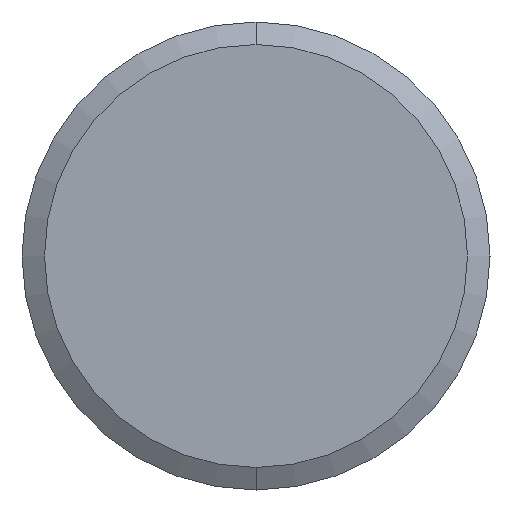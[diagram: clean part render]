
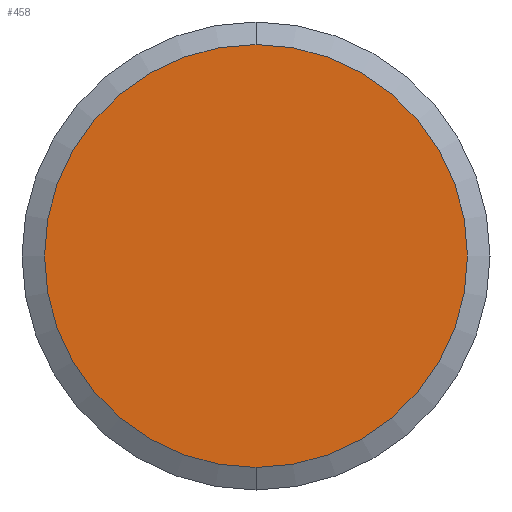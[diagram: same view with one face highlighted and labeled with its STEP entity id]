
A CAD part, front view. The second image highlights one B-rep face of the part: STEP entity #458.
In plain terms, the highlighted planar face has unit normal (0, -1, 0).
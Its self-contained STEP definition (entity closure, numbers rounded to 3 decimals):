
#6 = EDGE_LOOP ( 'NONE', ( #254, #579 ) ) ;
#68 = PLANE ( 'NONE',  #440 ) ;
#110 = CIRCLE ( 'NONE', #653, 4.7 ) ;
#161 = CARTESIAN_POINT ( 'NONE',  ( 0., -7.3, -4.7 ) ) ;
#169 = CARTESIAN_POINT ( 'NONE',  ( 0., -7.3, 0. ) ) ;
#223 = CARTESIAN_POINT ( 'NONE',  ( 0., -7.3, 4.7 ) ) ;
#233 = DIRECTION ( 'NONE',  ( 0., -1., 0. ) ) ;
#254 = ORIENTED_EDGE ( 'NONE', *, *, #712, .T. ) ;
#270 = DIRECTION ( 'NONE',  ( 0., 0., 1. ) ) ;
#312 = DIRECTION ( 'NONE',  ( 0., 1., 0. ) ) ;
#358 = FACE_OUTER_BOUND ( 'NONE', #6, .T. ) ;
#407 = DIRECTION ( 'NONE',  ( 0., -1., 0. ) ) ;
#440 = AXIS2_PLACEMENT_3D ( 'NONE', #736, #312, #443 ) ;
#443 = DIRECTION ( 'NONE',  ( 0., 0., 1. ) ) ;
#451 = VERTEX_POINT ( 'NONE', #161 ) ;
#456 = VERTEX_POINT ( 'NONE', #223 ) ;
#458 = ADVANCED_FACE ( 'NONE', ( #358 ), #68, .F. ) ;
#472 = DIRECTION ( 'NONE',  ( 0., 0., 1. ) ) ;
#491 = CIRCLE ( 'NONE', #681, 4.7 ) ;
#501 = EDGE_CURVE ( 'NONE', #456, #451, #110, .T. ) ;
#579 = ORIENTED_EDGE ( 'NONE', *, *, #501, .T. ) ;
#646 = CARTESIAN_POINT ( 'NONE',  ( 0., -7.3, 0. ) ) ;
#653 = AXIS2_PLACEMENT_3D ( 'NONE', #169, #233, #472 ) ;
#681 = AXIS2_PLACEMENT_3D ( 'NONE', #646, #407, #270 ) ;
#712 = EDGE_CURVE ( 'NONE', #451, #456, #491, .T. ) ;
#736 = CARTESIAN_POINT ( 'NONE',  ( 0., -7.3, 0. ) ) ;
